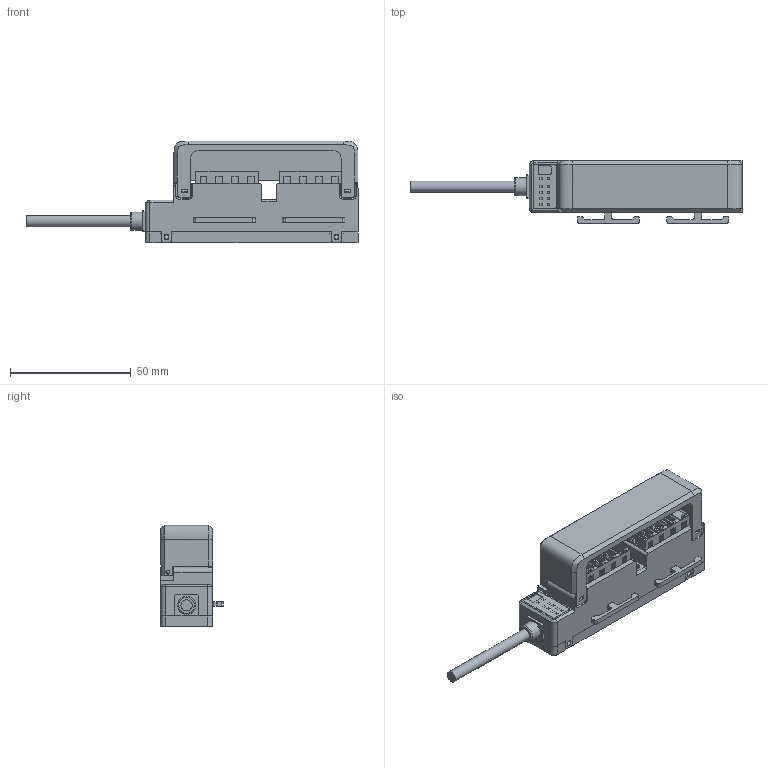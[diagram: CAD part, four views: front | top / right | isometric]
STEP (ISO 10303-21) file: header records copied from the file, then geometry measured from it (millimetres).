
FILE_DESCRIPTION(/* description */ (''),/* implementation_level */ '2;1');
FILE_NAME(/* name */ 'LS系列-8点从站.stp',/* time_stamp */ '2023-10-07T17:39:57+08:00',/* author */ (''),/* organization */ (''),/* preprocessor_version */ 'ST-DEVELOPER v16',/* originating_system */ 'SIEMENS PLM Software NX 10.0',/* authorisation */ '');
FILE_SCHEMA (('AP203_CONFIGURATION_CONTROLLED_3D_DESIGN_OF_MECHANICAL_PARTS_AND_ASSEMBLIES_MIM_LF { 1 0 10303 403 2 1 2}'));
Length unit declared in the file: millimetre
Products named in the file (1): chao8068F8924ybw
Bounding box: 137.2 x 25.99 x 42 mm (x, y, z)
Volume: 35894.8 mm3; surface area: 33041.1 mm2
Topology: 12 solids, 12 shells, 1233 faces, 3278 edges, 2112 vertices
Faces by surface type: plane 1114, cylinder 84, bspline 20, cone 12, sphere 2, torus 1
Full cylindrical faces by diameter (mm): 1.5 x2, 1.6 x2, 3.3 x2, 4.6 x1, 5.5 x2, 7.5 x1
Entity records: 40184 total; most frequent: CARTESIAN_POINT 9499, ORIENTED_EDGE 6496, DIRECTION 5798, EDGE_CURVE 3248, LINE 2990, VECTOR 2990, VERTEX_POINT 2103, EDGE_LOOP 1407
